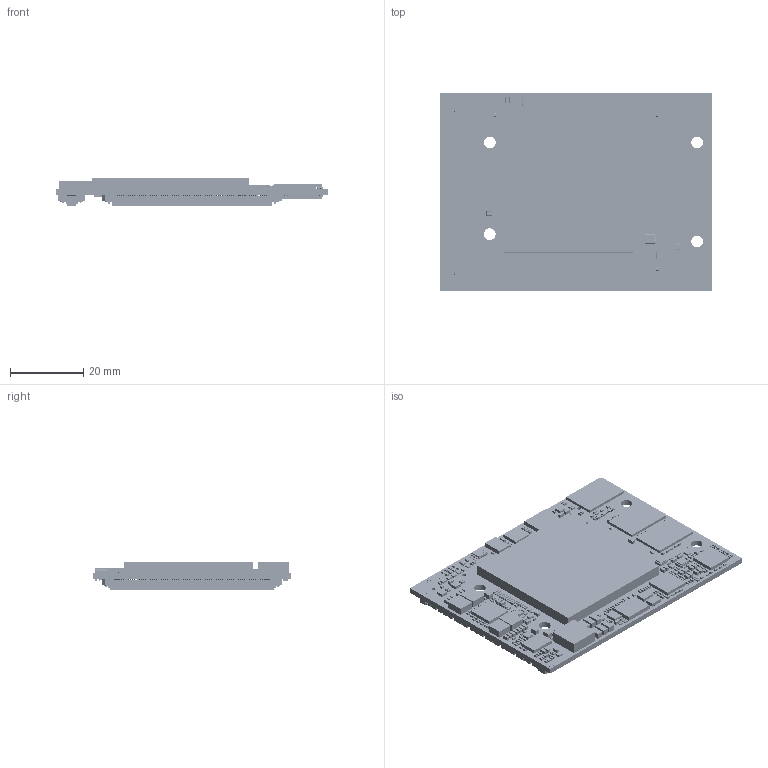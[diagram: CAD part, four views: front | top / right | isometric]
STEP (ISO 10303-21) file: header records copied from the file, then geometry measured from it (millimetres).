
FILE_DESCRIPTION(('Open CASCADE Model'),'2;1');
FILE_NAME('Open CASCADE Shape Model','2021-12-22T14:19:25',('Author'),( 'Open CASCADE'),'Open CASCADE STEP processor 6.8','Open CASCADE 6.8' ,'Unknown');
FILE_SCHEMA(('AUTOMOTIVE_DESIGN { 1 0 10303 214 1 1 1 1 }'));
Length unit declared in the file: millimetre
Products named in the file (884): PCB; Board; Open CASCADE STEP translator 6.8 3.1.1; C1235; 0402_Capacitor; R432; 0402_Resistor; R431; R430; R429; R428; R427; R426; R425; R424; Q405; SOT563; LDF; Mold; 6410841840; Cylinder; Q404; Q403; Q402; U1909; 6406728032; Extruded; 6410517120; U1907; 6410516560; 7258202976; U1905; U1903; U502; 6410516720; U501; C1933; C1932; Z2102; Hole_6-0mm_3-2mm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
Assembly tree (1578 placements, depth 5):
  PCB
    Board
      Open CASCADE STEP translator 6.8 3.1.1
    C1235
      0402_Capacitor
    R432
      0402_Resistor
    R431
      0402_Resistor
    R430
      0402_Resistor
    R429
      0402_Resistor
    R428
      0402_Resistor
    R427
      0402_Resistor
    R426
      0402_Resistor
    R425
      0402_Resistor
    R424
      0402_Resistor
    Q405
      SOT563
        LDF
        Mold
      6410841840
        Cylinder
    Q404
      SOT563
        LDF
        Mold
      6410841840
        Cylinder
    Q403
      SOT563
        LDF
        Mold
      6410841840
        Cylinder
    Q402
      SOT563
        LDF
        Mold
      6410841840
        Cylinder
    U1909
      6406728032
        Extruded
      6410517120
        Cylinder
    U1907
      6410516560
        Extruded
      7258202976
        Cylinder
    U1905
      6410516560
        Extruded
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Bounding box: 74 x 54 x 7.8 mm (x, y, z)
Volume: 13420 mm3; surface area: 24212.5 mm2
Topology: 3001 solids, 3001 shells, 25520 faces, 59284 edges, 39020 vertices
Faces by surface type: plane 23023, cylinder 1108, sphere 688, extrusion 673, cone 20, torus 8
Full cylindrical faces by diameter (mm): 0.2 x5, 0.3 x15, 0.4 x22, 0.44 x7, 0.455 x7, 1 x6, 1.1 x6, 3.2 x10, 6 x4, 6.4 x2
Entity records: 273690 total; most frequent: CARTESIAN_POINT 44442, ORIENTED_EDGE 36808, DIRECTION 34903, EDGE_CURVE 18404, VECTOR 16837, LINE 16191, VERTEX_POINT 12242, AXIS2_PLACEMENT_3D 9033
